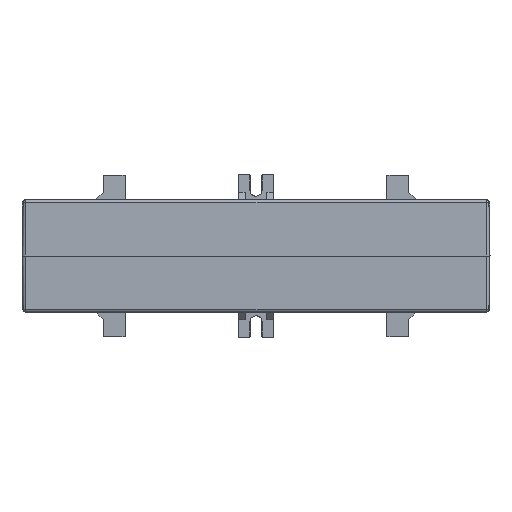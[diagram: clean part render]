
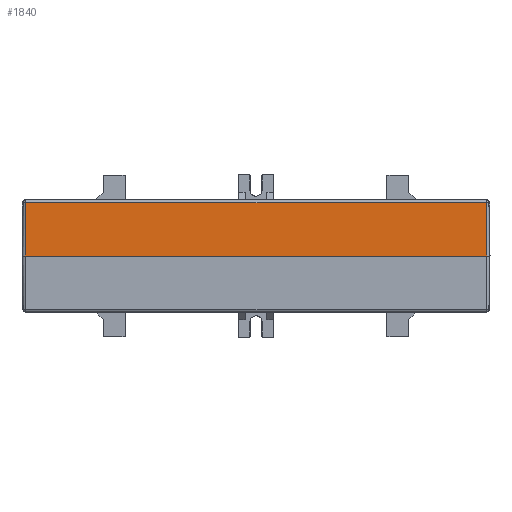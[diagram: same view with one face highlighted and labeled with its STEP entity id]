
A CAD part, front view. The second image highlights one B-rep face of the part: STEP entity #1840.
In plain terms, the highlighted planar face has unit normal (0, -1, 0.009).
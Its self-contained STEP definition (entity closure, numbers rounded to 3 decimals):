
#1840=ADVANCED_FACE('',(#3954),#2911,.F.);
#2911=PLANE('',#24549);
#3954=FACE_OUTER_BOUND('',#5181,.T.);
#5181=EDGE_LOOP('',(#8980,#8981,#8982,#8983));
#8980=ORIENTED_EDGE('',*,*,#16546,.F.);
#8981=ORIENTED_EDGE('',*,*,#16582,.T.);
#8982=ORIENTED_EDGE('',*,*,#16322,.T.);
#8983=ORIENTED_EDGE('',*,*,#16580,.F.);
#13615=VERTEX_POINT('',#35020);
#13619=VERTEX_POINT('',#35046);
#13759=VERTEX_POINT('',#35520);
#13763=VERTEX_POINT('',#35546);
#16322=EDGE_CURVE('',#13619,#13615,#19406,.T.);
#16546=EDGE_CURVE('',#13763,#13759,#19589,.T.);
#16580=EDGE_CURVE('',#13759,#13615,#19623,.T.);
#16582=EDGE_CURVE('',#13763,#13619,#19625,.T.);
#19406=LINE('',#35045,#22121);
#19589=LINE('',#35547,#22304);
#19623=LINE('',#35612,#22338);
#19625=LINE('',#35615,#22340);
#22121=VECTOR('',#27898,1.);
#22304=VECTOR('',#28315,1.);
#22338=VECTOR('',#28379,1.);
#22340=VECTOR('',#28383,1.);
#24549=AXIS2_PLACEMENT_3D('',#35616,#28384,#28385);
#27898=DIRECTION('',(-0.009,0.009,1.));
#28315=DIRECTION('',(0.009,0.009,1.));
#28379=DIRECTION('',(1.,0.,0.));
#28383=DIRECTION('',(1.,0.,0.));
#28384=DIRECTION('',(0.,1.,-0.009));
#28385=DIRECTION('',(0.,0.009,1.));
#35020=CARTESIAN_POINT('',(73.812,-130.993,16.953));
#35045=CARTESIAN_POINT('',(73.96,-131.142,-0.056));
#35046=CARTESIAN_POINT('',(73.96,-131.142,-0.056));
#35520=CARTESIAN_POINT('',(-73.812,-130.993,16.953));
#35546=CARTESIAN_POINT('',(-73.96,-131.142,-0.056));
#35547=CARTESIAN_POINT('',(-73.96,-131.142,-0.056));
#35612=CARTESIAN_POINT('',(-113.644,-130.993,16.953));
#35615=CARTESIAN_POINT('',(-113.644,-131.142,-0.056));
#35616=CARTESIAN_POINT('',(-113.644,-131.142,-0.056));
